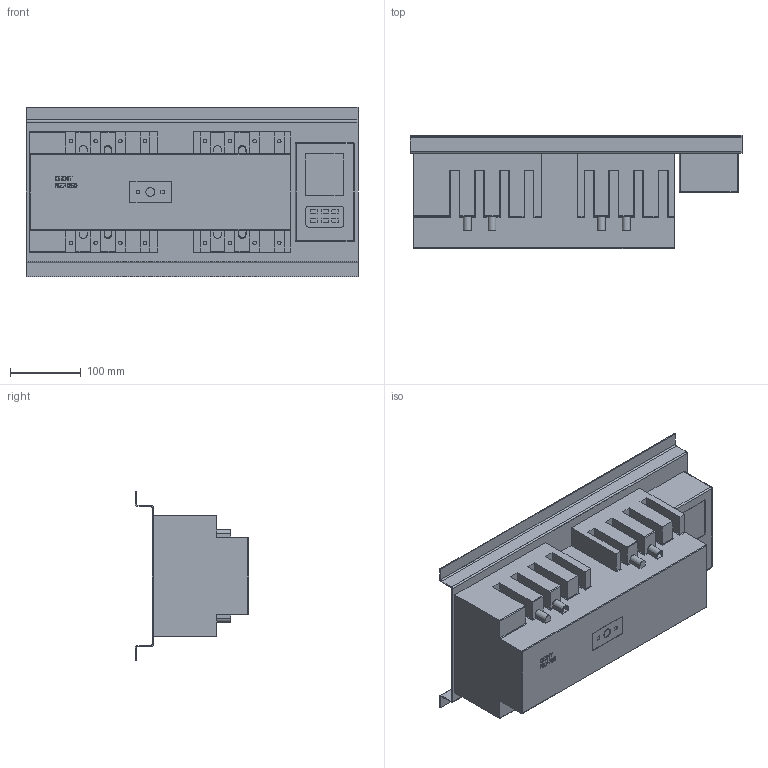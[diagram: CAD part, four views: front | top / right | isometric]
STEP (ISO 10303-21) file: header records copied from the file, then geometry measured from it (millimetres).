
FILE_DESCRIPTION(/* description */ ('','CAx-IF Rec.Pracs.---Representation and Presentation of Product Manufacturing Information (PMI)---3.8---2014-02-18'),/* implementation_level */ '2;1');
FILE_NAME(/* name */ 'C:\Users\ILYA\Desktop\NZ7\NZ7-250(4P)\NZ7-250(4P).stp',/* time_stamp */ '2017-08-16T21:24:32+03:00',/* author */ ('ILYA'),/* organization */ (''),/* preprocessor_version */ 'ST-DEVELOPER v16.1',/* originating_system */ 'Autodesk Inventor 2016',/* authorisation */ '');
FILE_SCHEMA (('AP242_MANAGED_MODEL_BASED_3D_ENGINEERING_MIM_LF { 1 0 10303 442 1 1 4 }'));
Length unit declared in the file: millimetre
Products named in the file (1): NZ7-250(4P)
Bounding box: 470 x 160 x 240 mm (x, y, z)
Volume: 7580930.5 mm3; surface area: 517640.4 mm2
Topology: 1 solids, 1 shells, 525 faces, 1372 edges, 896 vertices
Faces by surface type: plane 319, cylinder 150, bspline 52, sphere 4
Full cylindrical faces by diameter (mm): 5 x16, 13 x1
Entity records: 16459 total; most frequent: CARTESIAN_POINT 3610, ORIENTED_EDGE 2710, DIRECTION 2463, EDGE_CURVE 1355, LINE 987, VECTOR 987, VERTEX_POINT 896, AXIS2_PLACEMENT_3D 738
